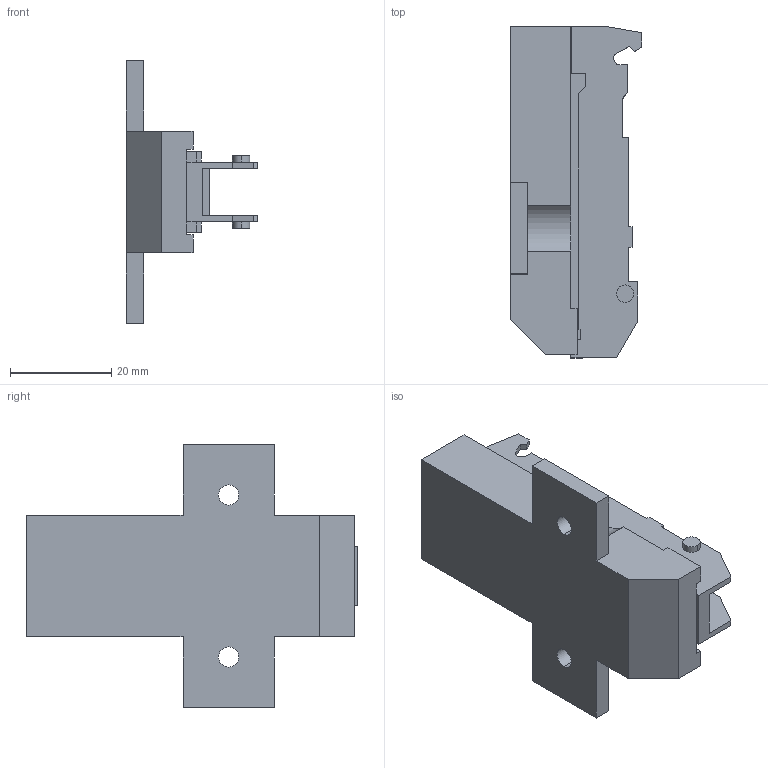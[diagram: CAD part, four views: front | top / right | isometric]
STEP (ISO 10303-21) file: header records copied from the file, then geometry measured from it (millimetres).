
FILE_DESCRIPTION (( 'STEP AP214' ), '1' );
FILE_NAME ('1D Kreuzmontageplatte_37_32_H15.5.STEP', '2011-08-18T14:03:14', ( '' ), ( '' ), 'SwSTEP 2.0', 'SolidWorks 2011', '' );
FILE_SCHEMA (( 'AUTOMOTIVE_DESIGN' ));
Length unit declared in the file: millimetre
Products named in the file (1): 1D Kreuzmontageplatte_37_32_H15.5
Bounding box: 26 x 65.55 x 52 mm (x, y, z)
Volume: 23877.6 mm3; surface area: 9430.5 mm2
Topology: 1 solids, 1 shells, 101 faces, 289 edges, 192 vertices
Faces by surface type: plane 89, cylinder 12
Entity records: 3293 total; most frequent: CARTESIAN_POINT 583, ORIENTED_EDGE 578, DIRECTION 517, EDGE_CURVE 289, VECTOR 265, LINE 265, VERTEX_POINT 192, AXIS2_PLACEMENT_3D 126
